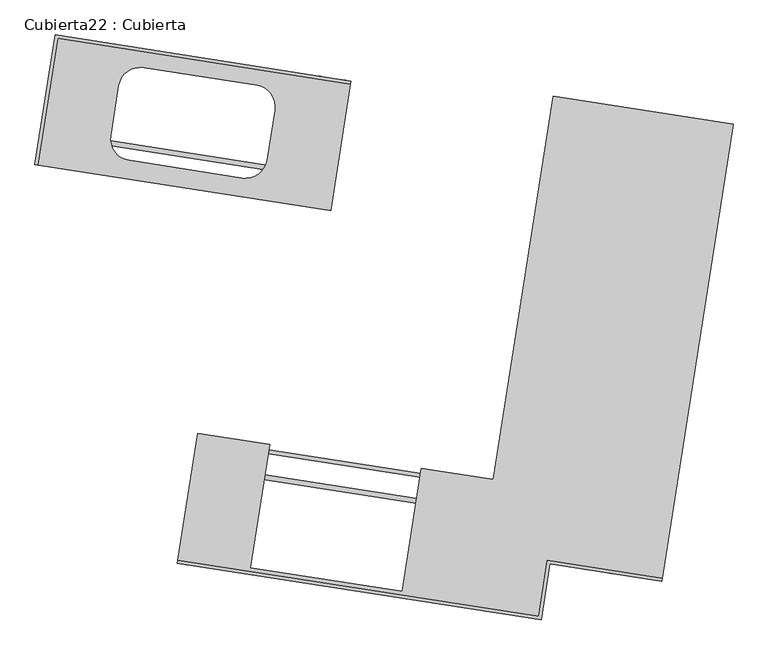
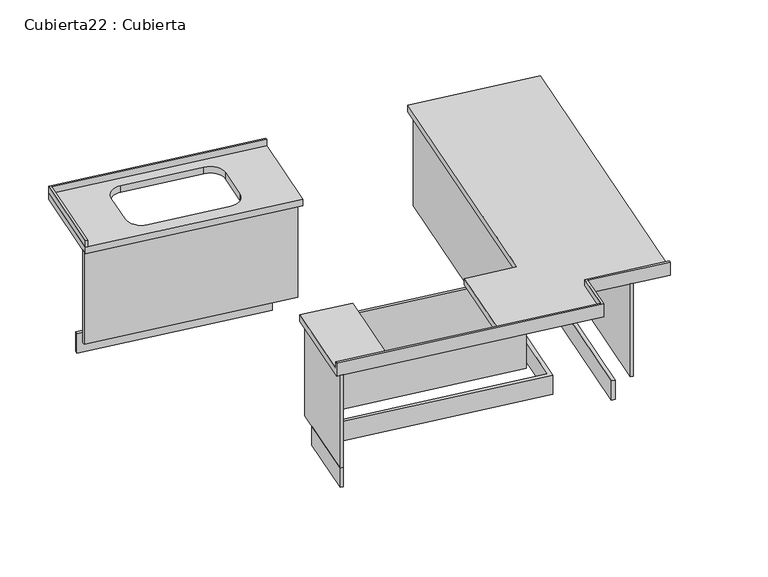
"""IFC4 building model written with IfcOpenShell, lengths in millimetres: furniture geometry, Cubierta22 : Cubierta."""

from ifc_helpers import new_model, si_unit, frame, origin, place, context, project, spatial, polyline, circle_curve, outline, extrude, faceted_brep, source, transform, mapped, element, save
from ifc_brep_helpers import plane_surface, revolved_surface, advanced_brep


def cubierta22_cubierta_c9997c7b(model_context):
    return source(origin(), model_context, "Body", "SolidModel", [
        extrude(outline(polyline([(-34707.8838651, -75205.4971561), (-34722.7049048, -75203.187008), (-34622.5984868, -74560.9419572), (-33160.25591, -74788.8765703), (-33162.5660581, -74803.6976099), (-34610.0875953, -74578.0731449), (-34707.8838651, -75205.4971561)])), frame((0.0, 0.0, 10520.0), z_axis=(0.0, 0.0, 1.0), x_axis=(1.0, 0.0, 0.0)), (0.0, 0.0, 1.0), 50.0),
        extrude(outline(polyline([(-34699.6034237, -75054.9766115), (-34695.7531768, -75030.2748788), (-33406.3227152, -75231.2577662), (-33333.1680252, -74761.9248446), (-33308.4662925, -74765.7750914), (-33385.4712293, -75259.8097457), (-34699.6034237, -75054.9766115)])), frame((0.0, 0.0, 9600.0), z_axis=(0.0, 0.0, 1.0), x_axis=(1.0, 0.0, 0.0)), (0.0, 0.0, 1.0), 150.0),
        extrude(outline(polyline([(-34718.8546579, -75178.4852751), (-34715.7744604, -75158.7238889), (-33297.8949887, -75379.7280599), (-33204.719015, -74781.9461282), (-33184.9576289, -74785.0263256), (-33281.2138, -75402.5696435), (-34718.8546579, -75178.4852751)])), frame((0.0, 0.0, 9750.0), z_axis=(0.0, 0.0, 1.0), x_axis=(1.0, 0.0, 0.0)), (0.0, 0.0, 1.0), 720.0),
        extrude(outline(polyline([(-31664.2309062, -75092.9064872), (-31993.8120355, -77207.3748033), (-32018.5137682, -77203.5245564), (-31692.7828858, -75113.757973), (-32013.9054072, -75063.7047647), (-32309.6043632, -76960.7978276), (-33900.3959544, -76712.8419302), (-33973.5506444, -77182.1748518), (-33993.3120306, -77179.0946543), (-33916.3070937, -76685.06), (-32330.455849, -76932.245848), (-32034.7568931, -75035.1527851), (-31664.2309062, -75092.9064872)])), frame((0.0, 0.0, 9600.0), z_axis=(0.0, 0.0, 1.0), x_axis=(1.0, 0.0, 0.0)), (0.0, 0.0, 1.0), 150.0),
        extrude(outline(polyline([(-32139.0143225, -74892.3928873), (-31521.4710084, -74988.6490578), (-31870.3033719, -77226.6260375), (-31890.0647581, -77223.54584), (-31544.3125921, -75005.3302465), (-32122.3331338, -74915.2344709), (-32418.0320897, -76812.3275339), (-33880.3746708, -76584.39292), (-33973.5506444, -77182.1748518), (-33993.3120306, -77179.0946543), (-33897.0558595, -76561.5513364), (-32434.7132784, -76789.4859502), (-32139.0143225, -74892.3928873)])), frame((0.0, 0.0, 9750.0), z_axis=(0.0, 0.0, 1.0), x_axis=(1.0, 0.0, 0.0)), (0.0, 0.0, 1.0), 720.0),
        faceted_brep([(-31270.6034361, -75002.4498036, 10520.0), (-32159.8658099, -74863.8409179, 10520.0), (-32455.5647643, -76760.9339706, 10520.0), (-32811.2697176, -76705.4904158, 10520.0), (-32906.2529889, -77314.867289, 10520.0), (-33657.1856635, -77197.819785, 10520.0), (-33562.2023922, -76588.4429117, 10520.0), (-33917.9073454, -76532.9993568, 10520.0), (-34015.7036152, -77160.4233678, 10520.0), (-32232.2385244, -77438.4111882, 10520.0), (-32189.1157606, -77161.7517871, 10520.0), (-31620.9758966, -77250.3074663, 10520.0), (-32219.7276329, -77455.542376, 10470.0), (-34018.0137633, -77175.2444075, 10470.0), (-33917.9073454, -76532.9993568, 10470.0), (-33562.2023922, -76588.4429117, 10470.0), (-33657.1856635, -77197.819785, 10470.0), (-32906.2529889, -77314.867289, 10470.0), (-32811.2697176, -76705.4904158, 10470.0), (-32455.5647643, -76760.9339706, 10470.0), (-32159.8658099, -74863.8409179, 10470.0), (-31270.6034361, -75002.4498036, 10470.0), (-31623.2860447, -77265.1285059, 10470.0), (-32176.6048691, -77178.8829748, 10470.0), (-31620.9758966, -77250.3074663, 10570.0), (-31623.2860447, -77265.1285059, 10570.0), (-32232.2385244, -77438.4111882, 10570.0), (-34015.7036152, -77160.4233678, 10570.0), (-32219.7276329, -77455.5423759, 10570.0), (-34018.0137633, -77175.2444075, 10570.0), (-32189.1157606, -77161.7517871, 10570.0), (-32176.6048691, -77178.8829748, 10570.0)], [[[0, 1, 2, 3, 4, 5, 6, 7, 8, 9, 10, 11]], [[12, 13, 14, 15, 16, 17, 18, 19, 20, 21, 22, 23]], [[22, 21, 0, 11, 24, 25]], [[26, 9, 8, 27]], [[28, 29, 13, 12]], [[27, 8, 7, 14, 13, 29]], [[3, 2, 19, 18]], [[2, 1, 20, 19]], [[1, 0, 21, 20]], [[7, 6, 15, 14]], [[6, 5, 16, 15]], [[5, 4, 17, 16]], [[4, 3, 18, 17]], [[25, 24, 30, 26, 27, 29, 28, 31]], [[24, 11, 10, 30]], [[22, 25, 31, 23]], [[9, 26, 30, 10]], [[28, 12, 23, 31]]]),
        advanced_brep(
        [(-33260.3623141, -75431.1216232, 10520.0), (-33160.2559, -74788.876597, 10520.0), (-34622.5984907, -74560.9419818, 10520.0), (-34722.7049048, -75203.187008, 10520.0), (-34307.0821622, -74812.5362822, 10520.0), (-34184.8796897, -74723.2919227, 10520.0), (-33626.6205303, -74810.3075014, 10520.0), (-33537.3761707, -74932.5099739, 10520.0), (-33575.8786392, -75179.5273011, 10520.0), (-33698.0811117, -75268.7716606, 10520.0), (-34256.3402711, -75181.7560819, 10520.0), (-34345.5846307, -75059.5536094, 10520.0), (-33260.3623141, -75431.1216232, 10470.0), (-34722.7049048, -75203.187008, 10470.0), (-34622.5984907, -74560.9419818, 10470.0), (-33160.2559, -74788.876597, 10470.0), (-34307.0821622, -74812.5362822, 10470.0), (-34345.5846307, -75059.5536094, 10470.0), (-34256.3402711, -75181.7560819, 10470.0), (-33698.0811117, -75268.7716606, 10470.0), (-33575.8786392, -75179.5273011, 10470.0), (-33537.3761707, -74932.5099739, 10470.0), (-33626.6205303, -74810.3075014, 10470.0), (-34184.8796897, -74723.2919227, 10470.0)],
        [
            (0, 1),
            (1, 2),
            (2, 3),
            (3, 0),
            (4, 5, circle_curve(frame((-34201.3587462, -74829.0153387, 10520.0), z_axis=(0.0, 0.0, -1.0), x_axis=(0.9880693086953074, -0.15400987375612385, 0.0)), 107.0)),
            (5, 6),
            (6, 7, circle_curve(frame((-33643.0995868, -74916.0309174, 10520.0), z_axis=(0.0, 0.0, -1.0), x_axis=(0.9880693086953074, -0.15400987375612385, 0.0)), 107.0)),
            (7, 8),
            (8, 9, circle_curve(frame((-33681.6020552, -75163.0482446, 10520.0), z_axis=(0.0, 0.0, -1.0), x_axis=(0.9880693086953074, -0.15400987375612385, 0.0)), 107.0)),
            (9, 10),
            (10, 11, circle_curve(frame((-34239.8612146, -75076.0326659, 10520.0), z_axis=(0.0, 0.0, -1.0), x_axis=(0.9880693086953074, -0.15400987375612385, 0.0)), 107.0)),
            (11, 4),
            (12, 13),
            (13, 14),
            (14, 15),
            (15, 12),
            (16, 17),
            (17, 18, circle_curve(frame((-34239.8612146, -75076.0326659, 10470.0), z_axis=(0.0, 0.0, 1.0), x_axis=(0.9880693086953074, -0.15400987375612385, 0.0)), 107.0)),
            (18, 19),
            (19, 20, circle_curve(frame((-33681.6020552, -75163.0482446, 10470.0), z_axis=(0.0, 0.0, 1.0), x_axis=(0.9880693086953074, -0.15400987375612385, 0.0)), 107.0)),
            (20, 21),
            (21, 22, circle_curve(frame((-33643.0995868, -74916.0309174, 10470.0), z_axis=(0.0, 0.0, 1.0), x_axis=(0.9880693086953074, -0.15400987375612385, 0.0)), 107.0)),
            (22, 23),
            (23, 16, circle_curve(frame((-34201.3587462, -74829.0153387, 10470.0), z_axis=(0.0, 0.0, 1.0), x_axis=(0.9880693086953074, -0.15400987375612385, 0.0)), 107.0)),
            (11, 17),
            (16, 4),
            (10, 18),
            (9, 19),
            (8, 20),
            (7, 21),
            (6, 22),
            (5, 23),
            (3, 13),
            (12, 0),
            (2, 14),
            (1, 15),
        ],
        [
            plane_surface(frame((-32219.7276329, -77455.5423759, 10520.0), z_axis=(0.0, 0.0, 1.0), x_axis=(0.15400987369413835, 0.9880693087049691, 0.0))),
            plane_surface(frame((-32219.7276329, -77455.5423759, 10470.0), z_axis=(0.0, 0.0, -1.0), x_axis=(-0.15400987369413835, -0.9880693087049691, 0.0))),
            plane_surface(frame((-34345.5846307, -75059.5536094, 10520.0), z_axis=(0.9880693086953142, -0.15400987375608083, 0.0), x_axis=(0.0, 0.0, -1.0))),
            revolved_surface(polyline([(-34134.1377985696, -75092.51172239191, 10470.0), (-34134.1377985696, -75092.51172239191, 10520.0)]), (-34239.8612146, -75076.0326659, 9620.0), (0.0, 0.0, -0.9999999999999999)),
            plane_surface(frame((-33698.0811117, -75268.7716606, 10520.0), z_axis=(0.1540098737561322, 0.9880693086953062, 0.0), x_axis=(0.0, 0.0, -1.0))),
            revolved_surface(polyline([(-33575.8786391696, -75179.5273010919, 10470.0), (-33575.8786391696, -75179.5273010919, 10520.0)]), (-33681.6020552, -75163.0482446, 9620.0), (0.0, 0.0, -0.9999999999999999)),
            plane_surface(frame((-33537.3761707, -74932.5099739, 10520.0), z_axis=(-0.9880693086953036, 0.1540098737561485, 0.0), x_axis=(0.0, 0.0, -1.0))),
            revolved_surface(polyline([(-33537.3761707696, -74932.50997389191, 10470.0), (-33537.3761707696, -74932.50997389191, 10520.0)]), (-33643.0995868, -74916.0309174, 9620.0), (0.0, 0.0, -0.9999999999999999)),
            plane_surface(frame((-34184.8796897, -74723.2919227, 10520.0), z_axis=(-0.15400987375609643, -0.9880693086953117, 0.0), x_axis=(0.0, 0.0, -1.0))),
            revolved_surface(polyline([(-34095.6353301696, -74845.49439519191, 10470.0), (-34095.6353301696, -74845.49439519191, 10520.0)]), (-34201.3587462, -74829.0153387, 9620.0), (0.0, 0.0, -0.9999999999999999)),
            plane_surface(frame((-34722.7049048, -75203.187008, 10520.0), z_axis=(-0.1540098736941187, -0.9880693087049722, 0.0), x_axis=(0.0, 0.0, -1.0))),
            plane_surface(frame((-34622.5984907, -74560.9419818, 10520.0), z_axis=(-0.9880693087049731, 0.15400987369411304, 0.0), x_axis=(0.0, 0.0, -1.0))),
            plane_surface(frame((-33160.2559, -74788.876597, 10520.0), z_axis=(0.15400987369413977, 0.988069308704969, 0.0), x_axis=(0.0, 0.0, -1.0))),
            plane_surface(frame((-33260.3623141, -75431.1216232, 10520.0), z_axis=(0.9880693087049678, -0.15400987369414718, 0.0), x_axis=(0.0, 0.0, -1.0))),
        ],
        [
            (0, [[1, 2, 3, 4], [5, 6, 7, 8, 9, 10, 11, 12]]),
            (1, [[13, 14, 15, 16], [17, 18, 19, 20, 21, 22, 23, 24]]),
            (2, [[-12, 25, -17, 26]]),
            (3, [[-11, 27, -18, -25]]),
            (4, [[-10, 28, -19, -27]]),
            (5, [[-9, 29, -20, -28]]),
            (6, [[-8, 30, -21, -29]]),
            (7, [[-7, 31, -22, -30]]),
            (8, [[-6, 32, -23, -31]]),
            (9, [[-5, -26, -24, -32]]),
            (10, [[-4, 33, -13, 34]]),
            (11, [[-3, 35, -14, -33]]),
            (12, [[-2, 36, -15, -35]]),
            (13, [[-1, -34, -16, -36]]),
        ],
    ),
    ])


if __name__ == "__main__":
    model = new_model("IFC4")
    model_context = context("Model", 3, world=origin())
    ifc_project = project(units=[si_unit("LENGTHUNIT", "METRE", prefix="MILLI")], contexts=[model_context])
    site = spatial("IfcSite", under=ifc_project)
    building = spatial("IfcBuilding", under=site)
    placement = place(None, origin())
    cubierta22_cubierta_shape = cubierta22_cubierta_c9997c7b(model_context)
    element("IfcFurniture", 1, ObjectType="Cubierta22 : Cubierta", at=placement, inside=building, context=model_context, shape_type="MappedRepresentation", body=[
        mapped(cubierta22_cubierta_shape, transform((0.0, 0.0, 0.0), x_axis=(1.0, 0.0, 0.0), y_axis=(0.0, 1.0, 0.0), z_axis=(0.0, 0.0, 1.0))),
    ])
    save(model, "model.ifc")
